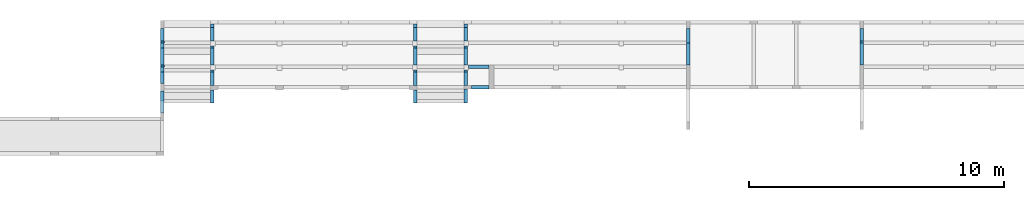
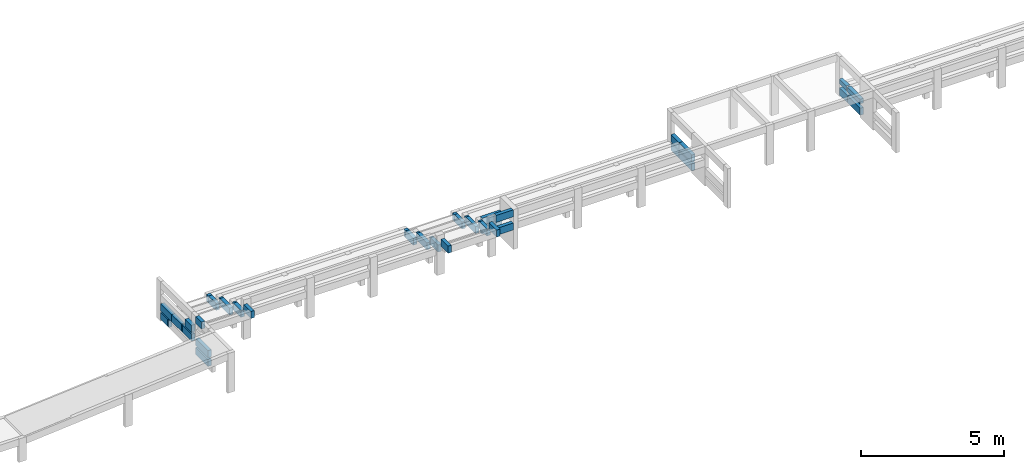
# One storey, part 6 of 9: 43 beams.
"""IFC4 building model written with IfcOpenShell, lengths in centimetres."""

from ifc_helpers import new_model, si_unit, derived_unit, frame, origin_with_axes, origin_2d_with_axis, place, context, project, spatial, rectangle, extrude, material, element, save


model = new_model("IFC4")

# Units and contexts
model_context = context("Model", 3, precision=1e-05, world=origin_with_axes(), identifier="Body")
ifc_project = project(units=[si_unit("LENGTHUNIT", "METRE", prefix="CENTI"), si_unit("VOLUMEUNIT", "CUBIC_METRE"), si_unit("AREAUNIT", "SQUARE_METRE"), si_unit("POWERUNIT", "WATT"), si_unit("LUMINOUSFLUXUNIT", "LUMEN"), si_unit("ELECTRICCURRENTUNIT", "AMPERE"), si_unit("PRESSUREUNIT", "PASCAL", prefix="KILO"), si_unit("MASSUNIT", "GRAM", prefix="KILO"), si_unit("PLANEANGLEUNIT", "RADIAN"), derived_unit("VOLUMETRICFLOWRATEUNIT", [(si_unit("LENGTHUNIT", "METRE"), 3), (si_unit("TIMEUNIT", "SECOND"), -1)])], contexts=[model_context])

# Site, building, storey
site_placement = place(None, origin_with_axes())
site = spatial("IfcSite", under=ifc_project, at=site_placement)
building_placement = place(site_placement, frame((0.0, 0.0, -170.0)))
building = spatial("IfcBuilding", under=site, at=building_placement)
placement = place(building_placement, origin_with_axes())
storey_placement = place(placement, frame((0.0, 0.0, 170.0), z_axis=(0.0, 0.0, 1.0), x_axis=(1.0, 0.0, 0.0)))
storey = spatial("IfcBuildingStorey", under=building, at=storey_placement, Name="Arquibancada", CompositionType="ELEMENT", Elevation=0.0)

# Beams
ifc_material = material(Name="Concreto")
beam_1_placement = place(storey_placement, frame((203.5, 338.5, -132.0), z_axis=(0.0, 0.0, 1.0), x_axis=(1.0, 0.0, 0.0)))
element("IfcBeam", 1, at=beam_1_placement, inside=storey, material=ifc_material, Name="V104", context=model_context, shape_type="SolidModel", body=[
    extrude(rectangle(XDim=14.0, YDim=30.0, at=origin_2d_with_axis()), frame((0.0, -26.5, -15.0), z_axis=(0.0, 1.0, 0.0), x_axis=(1.0, 0.0, 0.0)), (0.0, 0.0, 1.0), 53.0),
])
beam_2_placement = place(storey_placement, frame((203.5, 371.5, -132.0), z_axis=(0.0, 0.0, 1.0), x_axis=(1.0, 0.0, 0.0)))
element("IfcBeam", 2, at=beam_2_placement, inside=storey, material=ifc_material, Name="V104", context=model_context, shape_type="SolidModel", body=[
    extrude(rectangle(XDim=14.0, YDim=30.0, at=origin_2d_with_axis()), frame((0.0, -6.5, -15.0), z_axis=(0.0, 1.0, 0.0), x_axis=(-1.0, 0.0, 0.0)), (0.0, 0.0, 1.0), 13.0),
])
beam_3_placement = place(storey_placement, frame((1001.53, 371.5, -132.0), z_axis=(0.0, 0.0, 1.0), x_axis=(1.0, 0.0, 0.0)))
element("IfcBeam", 3, at=beam_3_placement, inside=storey, material=ifc_material, Name="V105", context=model_context, shape_type="SolidModel", body=[
    extrude(rectangle(XDim=14.0, YDim=30.0, at=origin_2d_with_axis()), frame((0.0, -6.5, -15.0), z_axis=(0.0, 1.0, 0.0), x_axis=(1.0, 0.0, 0.0)), (0.0, 0.0, 1.0), 13.0),
])
beam_4_placement = place(storey_placement, frame((1001.53, 338.5, -132.0), z_axis=(0.0, 0.0, 1.0), x_axis=(1.0, 0.0, 0.0)))
element("IfcBeam", 4, at=beam_4_placement, inside=storey, material=ifc_material, Name="V105", context=model_context, shape_type="SolidModel", body=[
    extrude(rectangle(XDim=14.0, YDim=30.0, at=origin_2d_with_axis()), frame((0.0, -26.5, -15.0), z_axis=(0.0, 1.0, 0.0), x_axis=(1.0, 0.0, 0.0)), (0.0, 0.0, 1.0), 53.0),
])
beam_5_placement = place(storey_placement, frame((1198.53, 371.5, -132.0), z_axis=(0.0, 0.0, 1.0), x_axis=(1.0, 0.0, 0.0)))
element("IfcBeam", 5, at=beam_5_placement, inside=storey, material=ifc_material, Name="V106", context=model_context, shape_type="SolidModel", body=[
    extrude(rectangle(XDim=14.0, YDim=30.0, at=origin_2d_with_axis()), frame((0.0, -6.5, -15.0), z_axis=(0.0, 1.0, 0.0), x_axis=(1.0, 0.0, 0.0)), (0.0, 0.0, 1.0), 13.0),
])
beam_6_placement = place(storey_placement, frame((1198.53, 338.5, -132.0), z_axis=(0.0, 0.0, 1.0), x_axis=(1.0, 0.0, 0.0)))
element("IfcBeam", 6, at=beam_6_placement, inside=storey, material=ifc_material, Name="V106", context=model_context, shape_type="SolidModel", body=[
    extrude(rectangle(XDim=14.0, YDim=30.0, at=origin_2d_with_axis()), frame((0.0, -26.5, -15.0), z_axis=(0.0, 1.0, 0.0), x_axis=(1.0, 0.0, 0.0)), (0.0, 0.0, 1.0), 53.0),
])
beam_7_placement = place(storey_placement, frame((1256.05, 131.0, -56.0), z_axis=(0.0, 0.0, 1.0), x_axis=(1.0, 0.0, 0.0)))
element("IfcBeam", 7, at=beam_7_placement, inside=storey, material=ifc_material, Name="V21", context=model_context, shape_type="SolidModel", body=[
    extrude(rectangle(XDim=14.0, YDim=30.0, at=origin_2d_with_axis()), frame((-34.51, 0.0, -15.0), z_axis=(1.0, 0.0, 0.0), x_axis=(0.0, 1.0, 0.0)), (0.0, 0.0, 1.0), 69.02),
])
beam_8_placement = place(storey_placement, frame((7.5, 168.0, -56.0), z_axis=(0.0, 0.0, 1.0), x_axis=(1.0, 0.0, 0.0)))
element("IfcBeam", 8, at=beam_8_placement, inside=storey, material=ifc_material, Name="V29", context=model_context, shape_type="SolidModel", body=[
    extrude(rectangle(XDim=14.0, YDim=30.0, at=origin_2d_with_axis()), frame((0.0, -22.0, -15.0), z_axis=(0.0, 1.0, 0.0), x_axis=(-1.0, 0.0, 0.0)), (0.0, 0.0, 1.0), 44.0),
])
beam_9_placement = place(storey_placement, frame((1250.545, 210.0, -94.0), z_axis=(0.0, 0.0, 1.0), x_axis=(1.0, 0.0, 0.0)))
element("IfcBeam", 9, at=beam_9_placement, inside=storey, material=ifc_material, Name="V37", context=model_context, shape_type="SolidModel", body=[
    extrude(rectangle(XDim=14.0, YDim=30.0, at=origin_2d_with_axis()), frame((-40.015, 0.0, -15.0), z_axis=(1.0, 0.0, 0.0), x_axis=(0.0, 1.0, 0.0)), (0.0, 0.0, 1.0), 80.03),
])
beam_10_placement = place(storey_placement, frame((7.5, 178.0, -94.0), z_axis=(0.0, 0.0, 1.0), x_axis=(1.0, 0.0, 0.0)))
element("IfcBeam", 10, at=beam_10_placement, inside=storey, material=ifc_material, Name="V41", context=model_context, shape_type="SolidModel", body=[
    extrude(rectangle(XDim=14.0, YDim=30.0, at=origin_2d_with_axis()), frame((0.0, -32.0, -15.0), z_axis=(0.0, 1.0, 0.0), x_axis=(-1.0, 0.0, 0.0)), (0.0, 0.0, 1.0), 64.0),
])
beam_11_placement = place(storey_placement, frame((7.5, 73.0, -94.0), z_axis=(0.0, 0.0, 1.0), x_axis=(1.0, 0.0, 0.0)))
element("IfcBeam", 11, at=beam_11_placement, inside=storey, material=ifc_material, Name="V41", context=model_context, shape_type="SolidModel", body=[
    extrude(rectangle(XDim=14.0, YDim=30.0, at=origin_2d_with_axis()), frame((0.0, -43.0, -15.0), z_axis=(0.0, 1.0, 0.0), x_axis=(-1.0, 0.0, 0.0)), (0.0, 0.0, 1.0), 86.0),
])
beam_12_placement = place(storey_placement, frame((7.5, 213.5, -94.0), z_axis=(0.0, 0.0, 1.0), x_axis=(1.0, 0.0, 0.0)))
element("IfcBeam", 12, at=beam_12_placement, inside=storey, material=ifc_material, Name="V41", context=model_context, shape_type="SolidModel", body=[
    extrude(rectangle(XDim=14.0, YDim=30.0, at=origin_2d_with_axis()), frame((0.0, -3.5, -15.0), z_axis=(0.0, 1.0, 0.0), x_axis=(-1.0, 0.0, 0.0)), (0.0, 0.0, 1.0), 7.0),
])
beam_13_placement = place(storey_placement, frame((7.5, 251.0, -94.0), z_axis=(0.0, 0.0, 1.0), x_axis=(1.0, 0.0, 0.0)))
element("IfcBeam", 13, at=beam_13_placement, inside=storey, material=ifc_material, Name="V41", context=model_context, shape_type="SolidModel", body=[
    extrude(rectangle(XDim=14.0, YDim=30.0, at=origin_2d_with_axis()), frame((0.0, -34.0, -15.0), z_axis=(0.0, 1.0, 0.0), x_axis=(-1.0, 0.0, 0.0)), (0.0, 0.0, 1.0), 68.0),
])
beam_14_placement = place(storey_placement, frame((7.5, 323.5, -94.0), z_axis=(0.0, 0.0, 1.0), x_axis=(1.0, 0.0, 0.0)))
element("IfcBeam", 14, at=beam_14_placement, inside=storey, material=ifc_material, Name="V41", context=model_context, shape_type="SolidModel", body=[
    extrude(rectangle(XDim=14.0, YDim=30.0, at=origin_2d_with_axis()), frame((0.0, -38.5, -15.0), z_axis=(0.0, 1.0, 0.0), x_axis=(-1.0, 0.0, 0.0)), (0.0, 0.0, 1.0), 77.0),
])
beam_15_placement = place(storey_placement, frame((203.5, 251.0, -94.0), z_axis=(0.0, 0.0, 1.0), x_axis=(1.0, 0.0, 0.0)))
element("IfcBeam", 15, at=beam_15_placement, inside=storey, material=ifc_material, Name="V42", context=model_context, shape_type="SolidModel", body=[
    extrude(rectangle(XDim=14.0, YDim=30.0, at=origin_2d_with_axis()), frame((0.0, -34.0, -15.0), z_axis=(0.0, 1.0, 0.0), x_axis=(1.0, 0.0, 0.0)), (0.0, 0.0, 1.0), 68.0),
])
beam_16_placement = place(storey_placement, frame((203.5, 289.0, -94.0), z_axis=(0.0, 0.0, 1.0), x_axis=(1.0, 0.0, 0.0)))
element("IfcBeam", 16, at=beam_16_placement, inside=storey, material=ifc_material, Name="V42", context=model_context, shape_type="SolidModel", body=[
    extrude(rectangle(XDim=14.0, YDim=30.0, at=origin_2d_with_axis()), frame((0.0, -4.0, -15.0), z_axis=(0.0, 1.0, 0.0), x_axis=(1.0, 0.0, 0.0)), (0.0, 0.0, 1.0), 8.0),
])
beam_17_placement = place(storey_placement, frame((2073.56, 333.5, -94.0), z_axis=(0.0, 0.0, 1.0), x_axis=(1.0, 0.0, 0.0)))
element("IfcBeam", 17, at=beam_17_placement, inside=storey, material=ifc_material, Name="V43", context=model_context, shape_type="SolidModel", body=[
    extrude(rectangle(XDim=14.0, YDim=30.0, at=origin_2d_with_axis()), frame((0.0, -28.5, -15.0), z_axis=(0.0, 1.0, 0.0), x_axis=(1.0, 0.0, 0.0)), (0.0, 0.0, 1.0), 57.0),
])
beam_18_placement = place(storey_placement, frame((2073.56, 261.0, -94.0), z_axis=(0.0, 0.0, 1.0), x_axis=(1.0, 0.0, 0.0)))
element("IfcBeam", 18, at=beam_18_placement, inside=storey, material=ifc_material, Name="V43", context=model_context, shape_type="SolidModel", body=[
    extrude(rectangle(XDim=14.0, YDim=30.0, at=origin_2d_with_axis()), frame((0.0, -44.0, -15.0), z_axis=(0.0, 1.0, 0.0), x_axis=(1.0, 0.0, 0.0)), (0.0, 0.0, 1.0), 88.0),
])
beam_19_placement = place(storey_placement, frame((2754.56, 261.0, -94.0), z_axis=(0.0, 0.0, 1.0), x_axis=(1.0, 0.0, 0.0)))
element("IfcBeam", 19, at=beam_19_placement, inside=storey, material=ifc_material, Name="V44", context=model_context, shape_type="SolidModel", body=[
    extrude(rectangle(XDim=14.0, YDim=20.0, at=origin_2d_with_axis()), frame((0.0, -44.0, -10.0), z_axis=(0.0, 1.0, 0.0), x_axis=(1.0, 0.0, 0.0)), (0.0, 0.0, 1.0), 88.0),
])
beam_20_placement = place(storey_placement, frame((2754.56, 337.0, -94.0), z_axis=(0.0, 0.0, 1.0), x_axis=(1.0, 0.0, 0.0)))
element("IfcBeam", 20, at=beam_20_placement, inside=storey, material=ifc_material, Name="V44", context=model_context, shape_type="SolidModel", body=[
    extrude(rectangle(XDim=14.0, YDim=20.0, at=origin_2d_with_axis()), frame((0.0, -25.0, -10.0), z_axis=(0.0, 1.0, 0.0), x_axis=(1.0, 0.0, 0.0)), (0.0, 0.0, 1.0), 50.0),
])
beam_21_placement = place(storey_placement, frame((7.5, 96.0, 0.0), z_axis=(0.0, 0.0, 1.0), x_axis=(1.0, 0.0, 0.0)))
element("IfcBeam", 21, at=beam_21_placement, inside=storey, material=ifc_material, Name="V5", context=model_context, shape_type="SolidModel", body=[
    extrude(rectangle(XDim=14.0, YDim=30.0, at=origin_2d_with_axis()), frame((0.0, -20.0, -15.0), z_axis=(0.0, 1.0, 0.0), x_axis=(-1.0, 0.0, 0.0)), (0.0, 0.0, 1.0), 40.0),
])
beam_22_placement = place(storey_placement, frame((7.5, 73.0, -132.0), z_axis=(0.0, 0.0, 1.0), x_axis=(1.0, 0.0, 0.0)))
element("IfcBeam", 22, at=beam_22_placement, inside=storey, material=ifc_material, Name="V60", context=model_context, shape_type="SolidModel", body=[
    extrude(rectangle(XDim=14.0, YDim=30.0, at=origin_2d_with_axis()), frame((0.0, -43.0, -15.0), z_axis=(0.0, 1.0, 0.0), x_axis=(-1.0, 0.0, 0.0)), (0.0, 0.0, 1.0), 86.0),
])
beam_23_placement = place(storey_placement, frame((7.5, 308.5, -132.0), z_axis=(0.0, 0.0, 1.0), x_axis=(1.0, 0.0, 0.0)))
element("IfcBeam", 23, at=beam_23_placement, inside=storey, material=ifc_material, Name="V60", context=model_context, shape_type="SolidModel", body=[
    extrude(rectangle(XDim=14.0, YDim=30.0, at=origin_2d_with_axis()), frame((0.0, -3.5, -15.0), z_axis=(0.0, 1.0, 0.0), x_axis=(-1.0, 0.0, 0.0)), (0.0, 0.0, 1.0), 7.0),
])
beam_24_placement = place(storey_placement, frame((7.5, 337.0, -132.0), z_axis=(0.0, 0.0, 1.0), x_axis=(1.0, 0.0, 0.0)))
element("IfcBeam", 24, at=beam_24_placement, inside=storey, material=ifc_material, Name="V60", context=model_context, shape_type="SolidModel", body=[
    extrude(rectangle(XDim=14.0, YDim=30.0, at=origin_2d_with_axis()), frame((0.0, -25.0, -15.0), z_axis=(0.0, 1.0, 0.0), x_axis=(-1.0, 0.0, 0.0)), (0.0, 0.0, 1.0), 50.0),
])
beam_25_placement = place(storey_placement, frame((2073.56, 261.0, -132.0), z_axis=(0.0, 0.0, 1.0), x_axis=(1.0, 0.0, 0.0)))
element("IfcBeam", 25, at=beam_25_placement, inside=storey, material=ifc_material, Name="V61", context=model_context, shape_type="SolidModel", body=[
    extrude(rectangle(XDim=14.0, YDim=30.0, at=origin_2d_with_axis()), frame((0.0, -44.0, -15.0), z_axis=(0.0, 1.0, 0.0), x_axis=(1.0, 0.0, 0.0)), (0.0, 0.0, 1.0), 88.0),
])
beam_26_placement = place(storey_placement, frame((2073.56, 333.5, -132.0), z_axis=(0.0, 0.0, 1.0), x_axis=(1.0, 0.0, 0.0)))
element("IfcBeam", 26, at=beam_26_placement, inside=storey, material=ifc_material, Name="V61", context=model_context, shape_type="SolidModel", body=[
    extrude(rectangle(XDim=14.0, YDim=30.0, at=origin_2d_with_axis()), frame((0.0, -28.5, -15.0), z_axis=(0.0, 1.0, 0.0), x_axis=(1.0, 0.0, 0.0)), (0.0, 0.0, 1.0), 57.0),
])
beam_27_placement = place(storey_placement, frame((2754.56, 261.0, -132.0), z_axis=(0.0, 0.0, 1.0), x_axis=(1.0, 0.0, 0.0)))
element("IfcBeam", 27, at=beam_27_placement, inside=storey, material=ifc_material, Name="V62", context=model_context, shape_type="SolidModel", body=[
    extrude(rectangle(XDim=14.0, YDim=30.0, at=origin_2d_with_axis()), frame((0.0, -44.0, -15.0), z_axis=(0.0, 1.0, 0.0), x_axis=(1.0, 0.0, 0.0)), (0.0, 0.0, 1.0), 88.0),
])
beam_28_placement = place(storey_placement, frame((2754.56, 333.5, -132.0), z_axis=(0.0, 0.0, 1.0), x_axis=(1.0, 0.0, 0.0)))
element("IfcBeam", 28, at=beam_28_placement, inside=storey, material=ifc_material, Name="V62", context=model_context, shape_type="SolidModel", body=[
    extrude(rectangle(XDim=14.0, YDim=30.0, at=origin_2d_with_axis()), frame((0.0, -28.5, -15.0), z_axis=(0.0, 1.0, 0.0), x_axis=(1.0, 0.0, 0.0)), (0.0, 0.0, 1.0), 57.0),
])
for number, where, z_axis, x_axis, name in (
    (29, (203.5, 94.0, -19.0), (0.0, 0.0, 1.0), (1.0, 0.0, 0.0), "V71"),
    (30, (1001.53, 94.0, -19.0), (0.0, 0.0, 1.0), (1.0, 0.0, 0.0), "V73"),
):
    element("IfcBeam", number, at=place(storey_placement, frame(where, z_axis=z_axis, x_axis=x_axis)), inside=storey, material=ifc_material, Name=name, context=model_context, shape_type="SolidModel", body=[
        extrude(rectangle(XDim=14.0, YDim=30.0, at=origin_2d_with_axis()), frame((0.0, -25.0, -15.0), z_axis=(0.0, 1.0, 0.0), x_axis=(1.0, 0.0, 0.0)), (0.0, 0.0, 1.0), 50.0),
    ])
beam_29_placement = place(storey_placement, frame((1256.05, 131.0, 0.0), z_axis=(0.0, 0.0, 1.0), x_axis=(1.0, 0.0, 0.0)))
element("IfcBeam", 31, at=beam_29_placement, inside=storey, material=ifc_material, Name="V74", context=model_context, shape_type="SolidModel", body=[
    extrude(rectangle(XDim=14.0, YDim=30.0, at=origin_2d_with_axis()), frame((-34.51, 0.0, -15.0), z_axis=(1.0, 0.0, 0.0), x_axis=(0.0, 1.0, 0.0)), (0.0, 0.0, 1.0), 69.02),
])
beam_30_placement = place(storey_placement, frame((1198.54, 96.5, -19.0), z_axis=(0.0, 0.0, 1.0), x_axis=(1.0, 0.0, 0.0)))
element("IfcBeam", 32, at=beam_30_placement, inside=storey, material=ifc_material, Name="V75", context=model_context, shape_type="SolidModel", body=[
    extrude(rectangle(XDim=14.0, YDim=30.0, at=origin_2d_with_axis()), frame((0.0, -27.5, -15.0), z_axis=(0.0, 1.0, 0.0), x_axis=(1.0, 0.0, 0.0)), (0.0, 0.0, 1.0), 55.0),
])
beam_31_placement = place(storey_placement, frame((203.5, 194.0, -56.0), z_axis=(0.0, 0.0, 1.0), x_axis=(1.0, 0.0, 0.0)))
element("IfcBeam", 33, at=beam_31_placement, inside=storey, material=ifc_material, Name="V85", context=model_context, shape_type="SolidModel", body=[
    extrude(rectangle(XDim=14.0, YDim=30.0, at=origin_2d_with_axis()), frame((0.0, -4.0, -15.0), z_axis=(0.0, 1.0, 0.0), x_axis=(1.0, 0.0, 0.0)), (0.0, 0.0, 1.0), 8.0),
])
for number, where, z_axis, x_axis, name in (
    (34, (203.5, 164.0, -56.0), (0.0, 0.0, 1.0), (1.0, 0.0, 0.0), "V85"),
    (35, (1001.53, 164.0, -56.0), (0.0, 0.0, 1.0), (1.0, 0.0, 0.0), "V86"),
):
    element("IfcBeam", number, at=place(storey_placement, frame(where, z_axis=z_axis, x_axis=x_axis)), inside=storey, material=ifc_material, Name=name, context=model_context, shape_type="SolidModel", body=[
        extrude(rectangle(XDim=14.0, YDim=30.0, at=origin_2d_with_axis()), frame((0.0, -26.0, -15.0), z_axis=(0.0, 1.0, 0.0), x_axis=(1.0, 0.0, 0.0)), (0.0, 0.0, 1.0), 52.0),
    ])
beam_32_placement = place(storey_placement, frame((1001.53, 194.0, -56.0), z_axis=(0.0, 0.0, 1.0), x_axis=(1.0, 0.0, 0.0)))
element("IfcBeam", 36, at=beam_32_placement, inside=storey, material=ifc_material, Name="V86", context=model_context, shape_type="SolidModel", body=[
    extrude(rectangle(XDim=14.0, YDim=30.0, at=origin_2d_with_axis()), frame((0.0, -4.0, -15.0), z_axis=(0.0, 1.0, 0.0), x_axis=(1.0, 0.0, 0.0)), (0.0, 0.0, 1.0), 8.0),
])
beam_33_placement = place(storey_placement, frame((1198.54, 164.0, -56.0), z_axis=(0.0, 0.0, 1.0), x_axis=(1.0, 0.0, 0.0)))
element("IfcBeam", 37, at=beam_33_placement, inside=storey, material=ifc_material, Name="V87", context=model_context, shape_type="SolidModel", body=[
    extrude(rectangle(XDim=14.0, YDim=30.0, at=origin_2d_with_axis()), frame((0.0, -26.0, -15.0), z_axis=(0.0, 1.0, 0.0), x_axis=(1.0, 0.0, 0.0)), (0.0, 0.0, 1.0), 52.0),
])
beam_34_placement = place(storey_placement, frame((1198.54, 194.0, -56.0), z_axis=(0.0, 0.0, 1.0), x_axis=(1.0, 0.0, 0.0)))
element("IfcBeam", 38, at=beam_34_placement, inside=storey, material=ifc_material, Name="V87", context=model_context, shape_type="SolidModel", body=[
    extrude(rectangle(XDim=14.0, YDim=30.0, at=origin_2d_with_axis()), frame((0.0, -4.0, -15.0), z_axis=(0.0, 1.0, 0.0), x_axis=(1.0, 0.0, 0.0)), (0.0, 0.0, 1.0), 8.0),
])
beam_35_placement = place(storey_placement, frame((1250.545, 210.0, -56.0), z_axis=(0.0, 0.0, 1.0), x_axis=(1.0, 0.0, 0.0)))
element("IfcBeam", 39, at=beam_35_placement, inside=storey, material=ifc_material, Name="V88", context=model_context, shape_type="SolidModel", body=[
    extrude(rectangle(XDim=14.0, YDim=30.0, at=origin_2d_with_axis()), frame((-40.015, 0.0, -15.0), z_axis=(1.0, 0.0, 0.0), x_axis=(0.0, 1.0, 0.0)), (0.0, 0.0, 1.0), 80.03),
])
beam_36_placement = place(storey_placement, frame((1001.53, 289.0, -94.0), z_axis=(0.0, 0.0, 1.0), x_axis=(1.0, 0.0, 0.0)))
element("IfcBeam", 40, at=beam_36_placement, inside=storey, material=ifc_material, Name="V93", context=model_context, shape_type="SolidModel", body=[
    extrude(rectangle(XDim=14.0, YDim=30.0, at=origin_2d_with_axis()), frame((0.0, -4.0, -15.0), z_axis=(0.0, 1.0, 0.0), x_axis=(1.0, 0.0, 0.0)), (0.0, 0.0, 1.0), 8.0),
])
beam_37_placement = place(storey_placement, frame((1001.53, 251.0, -94.0), z_axis=(0.0, 0.0, 1.0), x_axis=(1.0, 0.0, 0.0)))
element("IfcBeam", 41, at=beam_37_placement, inside=storey, material=ifc_material, Name="V93", context=model_context, shape_type="SolidModel", body=[
    extrude(rectangle(XDim=14.0, YDim=30.0, at=origin_2d_with_axis()), frame((0.0, -34.0, -15.0), z_axis=(0.0, 1.0, 0.0), x_axis=(1.0, 0.0, 0.0)), (0.0, 0.0, 1.0), 68.0),
])
beam_38_placement = place(storey_placement, frame((1198.53, 289.0, -94.0), z_axis=(0.0, 0.0, 1.0), x_axis=(1.0, 0.0, 0.0)))
element("IfcBeam", 42, at=beam_38_placement, inside=storey, material=ifc_material, Name="V94", context=model_context, shape_type="SolidModel", body=[
    extrude(rectangle(XDim=14.0, YDim=30.0, at=origin_2d_with_axis()), frame((0.0, -4.0, -15.0), z_axis=(0.0, 1.0, 0.0), x_axis=(1.0, 0.0, 0.0)), (0.0, 0.0, 1.0), 8.0),
])
beam_39_placement = place(storey_placement, frame((1198.53, 251.0, -94.0), z_axis=(0.0, 0.0, 1.0), x_axis=(1.0, 0.0, 0.0)))
element("IfcBeam", 43, at=beam_39_placement, inside=storey, material=ifc_material, Name="V94", context=model_context, shape_type="SolidModel", body=[
    extrude(rectangle(XDim=14.0, YDim=30.0, at=origin_2d_with_axis()), frame((0.0, -34.0, -15.0), z_axis=(0.0, 1.0, 0.0), x_axis=(1.0, 0.0, 0.0)), (0.0, 0.0, 1.0), 68.0),
])

save(model, "model.ifc")
